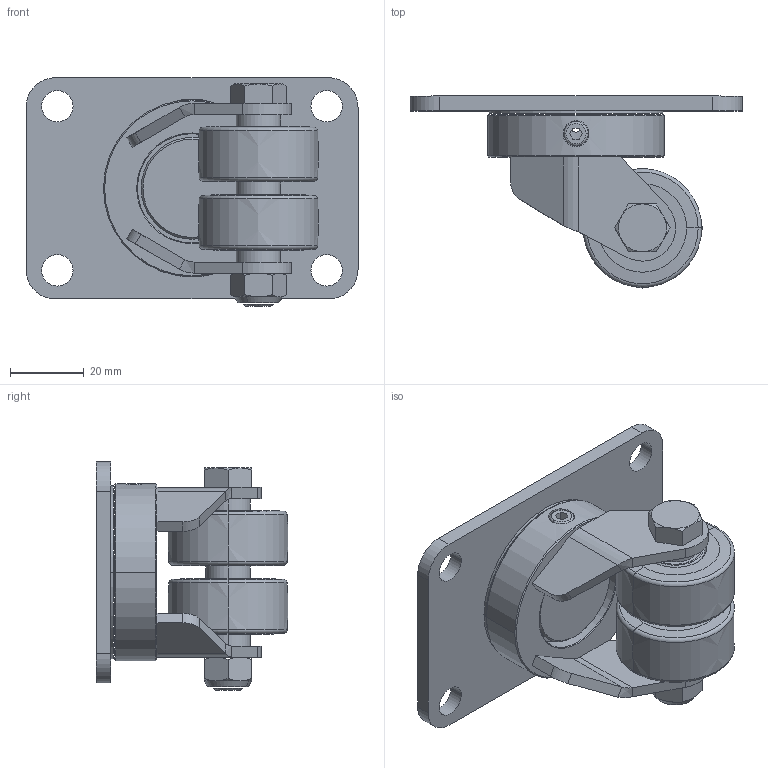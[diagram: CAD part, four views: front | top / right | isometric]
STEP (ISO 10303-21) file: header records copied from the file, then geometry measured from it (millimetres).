
FILE_DESCRIPTION((''),'2;1');
FILE_NAME('PRT0003','2025-07-04T08:26:49',('Administrator'),(''),'CREO PARAMETRIC BY PTC INC, 2022124','CREO PARAMETRIC BY PTC INC, 2022124','');
FILE_SCHEMA(('AUTOMOTIVE_DESIGN { 1 0 10303 214 1 1 1 1 }'));
Length unit declared in the file: millimetre
Products named in the file (1): PRT0003
Bounding box: 90 x 51.98 x 62 mm (x, y, z)
Surface area: 25110 mm2 (no closed solid volume)
Topology: 0 solids, 26 shells, 165 faces, 430 edges, 291 vertices
Faces by surface type: plane 63, cone 42, cylinder 34, torus 20, bspline 6
Entity records: 6757 total; most frequent: CARTESIAN_POINT 1367, DIRECTION 956, ORIENTED_EDGE 725, EDGE_CURVE 430, AXIS2_PLACEMENT_3D 400, VERTEX_POINT 291, CIRCLE 231, EDGE_LOOP 199
